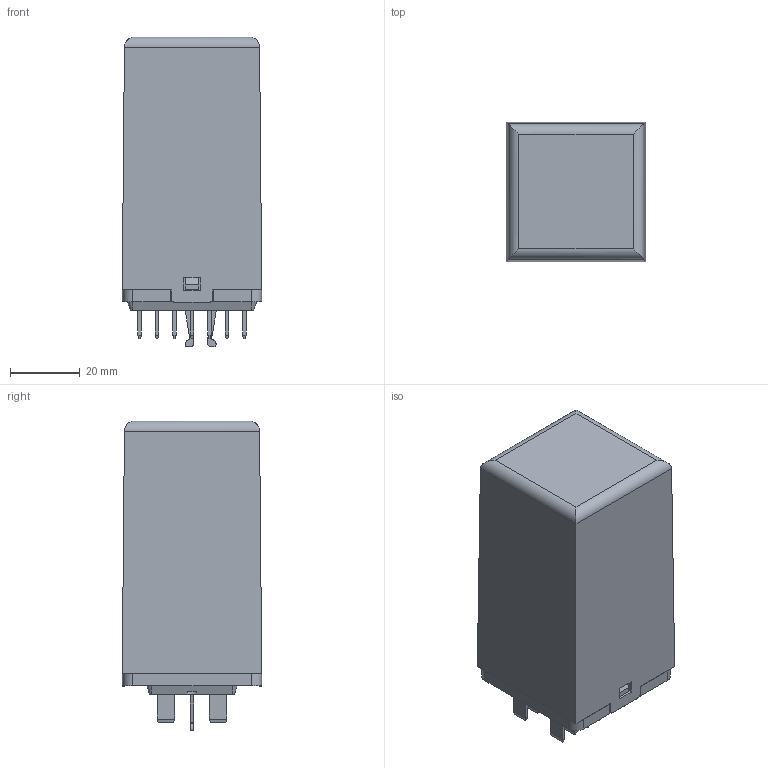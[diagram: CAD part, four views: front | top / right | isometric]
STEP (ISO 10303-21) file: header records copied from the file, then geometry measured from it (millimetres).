
FILE_DESCRIPTION((''),'2;1');
FILE_NAME('I:\TI\Bibliotheek\Inventor\Relais\TDDB\TDDB.stp','2011-03-03T14:07:38',('oey'),(''),'Autodesk Inventor 2011','Autodesk Inventor 2011','');
FILE_SCHEMA(('AUTOMOTIVE_DESIGN { 1 0 10303 214 1 1 1 1 }'));
Length unit declared in the file: millimetre
Products named in the file (1): TDDB
Bounding box: 40 x 40.06 x 88.85 mm (x, y, z)
Volume: 29389 mm3; surface area: 35579 mm2
Topology: 1 solids, 1 shells, 1474 faces, 4226 edges, 2692 vertices
Faces by surface type: plane 892, cylinder 403, bspline 116, sphere 56, cone 6, torus 1
Full cylindrical faces by diameter (mm): 1.6 x14, 1.7 x1, 2.7 x4
Entity records: 50406 total; most frequent: CARTESIAN_POINT 10248, ORIENTED_EDGE 8390, DIRECTION 7669, EDGE_CURVE 4195, VECTOR 2951, LINE 2951, VERTEX_POINT 2674, AXIS2_PLACEMENT_3D 2359
